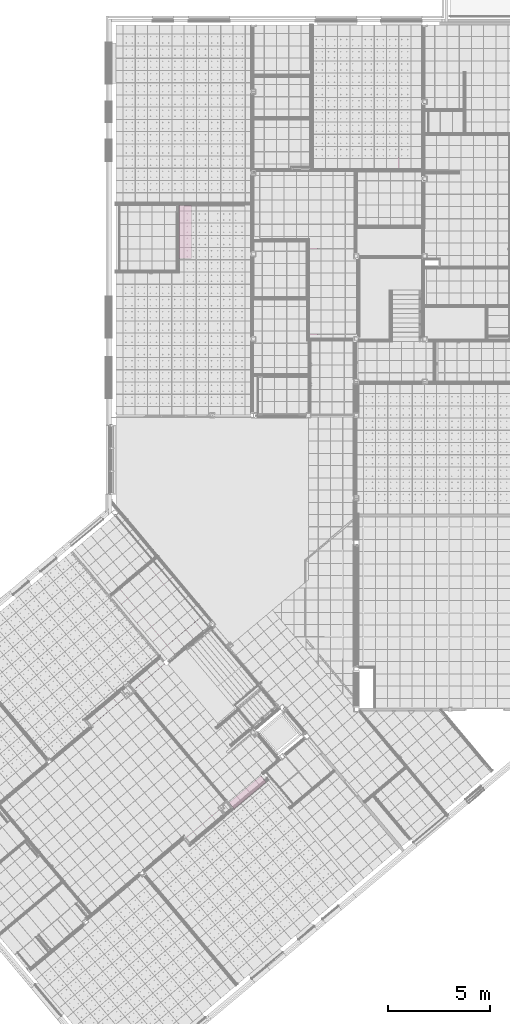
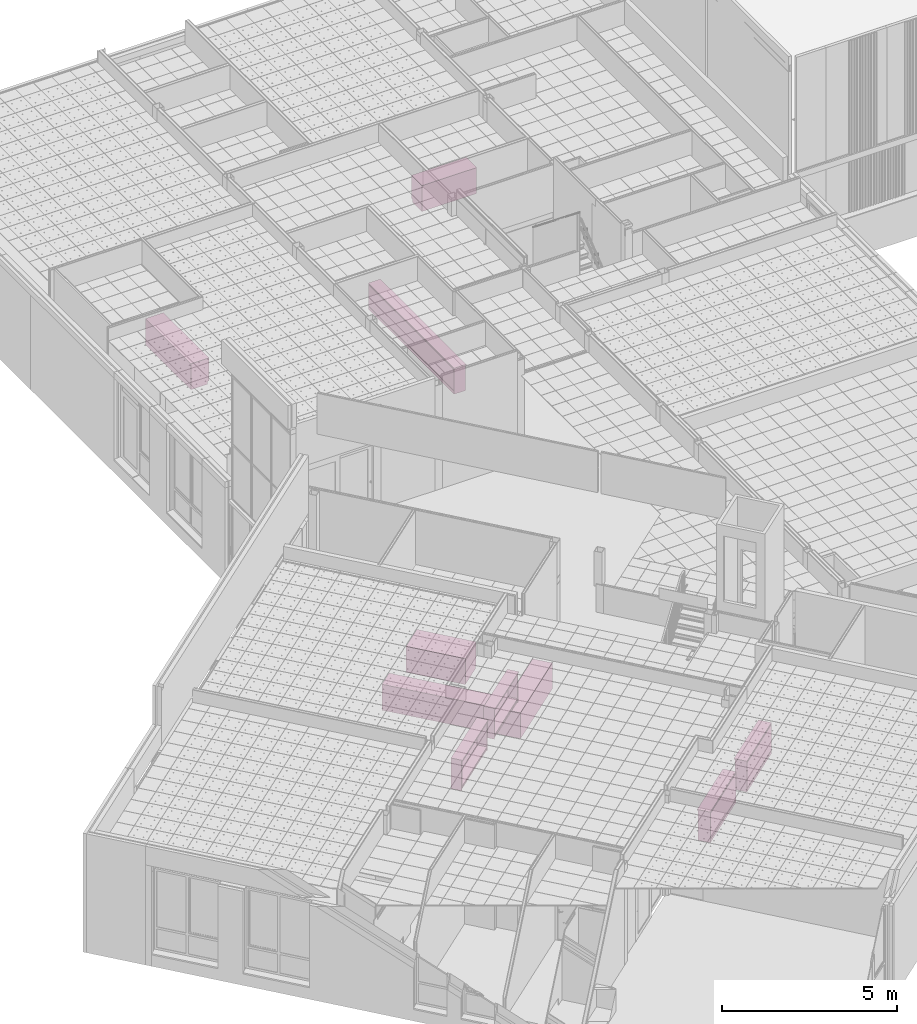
# One storey, part 124 of 338: 9 furnishings.
"""IFC2X3 building model written with IfcOpenShell, lengths in millimetres."""

from ifc_helpers import new_model, entity, si_unit, converted_unit, derived_unit, money_unit, direction, frame, origin_with_axes, place, context, subcontext, project, spatial, faceted_brep, type_object, element, save


model = new_model("IFC2X3")

# Units and contexts
model_context = context("Model", 3, precision=0.01, world=origin_with_axes(), true_north=direction((0.0, 1.0)))
plan_context = context("Plan", 3, precision=0.01, world=origin_with_axes(), true_north=direction((0.0, 1.0)))
body_context = subcontext(model_context, "Body", "Model", "MODEL_VIEW")
ifc_project = project(units=[si_unit("LENGTHUNIT", "METRE", prefix="MILLI"), si_unit("AREAUNIT", "SQUARE_METRE"), si_unit("VOLUMEUNIT", "CUBIC_METRE"), converted_unit("PLANEANGLEUNIT", "DEGREE", entity("IfcPlaneAngleMeasure", 0.0174532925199), si_unit("PLANEANGLEUNIT", "RADIAN"), dimensions=[0, 0, 0, 0, 0, 0, 0]), money_unit("EUR"), converted_unit("TIMEUNIT", "Year", entity("IfcTimeMeasure", 31556926.0), si_unit("TIMEUNIT", "SECOND"), dimensions=[0, 0, 1, 0, 0, 0, 0]), si_unit("MASSUNIT", "GRAM", prefix="KILO"), si_unit("THERMODYNAMICTEMPERATUREUNIT", "DEGREE_CELSIUS"), si_unit("LUMINOUSINTENSITYUNIT", "LUMEN"), si_unit("ENERGYUNIT", "JOULE", prefix="MEGA"), derived_unit("THERMALCONDUCTANCEUNIT", [(si_unit("POWERUNIT", "WATT"), 1), (si_unit("LENGTHUNIT", "METRE"), -1), (si_unit("THERMODYNAMICTEMPERATUREUNIT", "KELVIN"), -1)]), derived_unit("SPECIFICHEATCAPACITYUNIT", [(si_unit("ENERGYUNIT", "JOULE"), 1), (si_unit("MASSUNIT", "GRAM", prefix="KILO"), -1), (si_unit("THERMODYNAMICTEMPERATUREUNIT", "KELVIN"), -1)]), derived_unit("MASSDENSITYUNIT", [(si_unit("MASSUNIT", "GRAM", prefix="KILO"), 1), (si_unit("VOLUMEUNIT", "CUBIC_METRE"), -1)])], contexts=[model_context, plan_context])

# Site, building, storey
site_placement = place(None, origin_with_axes())
site = spatial("IfcSite", under=ifc_project, at=site_placement, Name="Fortuinstraat Woensdrecht", CompositionType="ELEMENT")
building_placement = place(site_placement, origin_with_axes())
building = spatial("IfcBuilding", under=site, at=building_placement, Name="IKC Fortuna", CompositionType="ELEMENT")
storey_placement = place(building_placement, origin_with_axes())
storey = spatial("IfcBuildingStorey", under=building, at=storey_placement, Name="00 begane grond", CompositionType="ELEMENT", Elevation=0.0)

# Furnishings
furnishing_element_type_1 = type_object("IfcFurnishingElementType", Name="Keukenopstelling 25")
furnishing_1_placement = place(storey_placement, frame((14446.070537, 6457.29319314, 0.0), z_axis=(0.0, 0.0, 1.0), x_axis=(0.642787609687, -0.766044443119, 0.0)))
element("IfcFurnishingElement", 1, at=furnishing_1_placement, inside=storey, type_object=furnishing_element_type_1, Name="73_Inrichting_P5: opstelplaats keuken door gebruikers", context=body_context, shape_type="Brep", body=[
    faceted_brep([(-1199.63709202, 0.0, 0.0), (3000.0, 15.8804798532, 0.0), (3000.0, 15.8804798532, 100.0), (-1199.63709202, 0.0, 100.0), (-1201.7168435, 549.996067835, 0.0), (2450.0, 563.804645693, 0.0), (2450.0, 563.804645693, 100.0), (-1201.7168435, 549.996067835, 100.0)], [[[0, 1, 2, 3]], [[0, 4, 5, 1]], [[1, 5, 6, 2]], [[3, 2, 6, 7]], [[4, 0, 3, 7]], [[5, 4, 7, 6]]]),
    faceted_brep([(3000.0, 15.8804798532, 0.0), (3000.0, 2665.49994966, 0.0), (3000.0, 2665.49994966, 100.0), (3000.0, 15.8804798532, 100.0), (2450.0, 563.804645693, 0.0), (2450.0, 2665.49994966, 0.0), (2450.0, 2665.49994966, 100.0), (2450.0, 563.804645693, 100.0)], [[[0, 1, 2, 3]], [[0, 4, 5, 1]], [[1, 5, 6, 2]], [[3, 2, 6, 7]], [[4, 0, 3, 7]], [[5, 4, 7, 6]]]),
    faceted_brep([(-1199.63709202, 0.0, 850.0), (3000.0, 15.8804798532, 850.0), (3000.0, 15.8804798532, 900.0), (-1199.63709202, 0.0, 900.0), (-1201.90591182, 599.995710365, 850.0), (2400.0, 613.615933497, 850.0), (2400.0, 613.615933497, 900.0), (-1201.90591182, 599.995710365, 900.0)], [[[0, 1, 2, 3]], [[0, 4, 5, 1]], [[1, 5, 6, 2]], [[3, 2, 6, 7]], [[4, 0, 3, 7]], [[5, 4, 7, 6]]]),
    faceted_brep([(3000.0, 15.8804798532, 850.0), (3000.0, 2665.49994966, 850.0), (3000.0, 2665.49994966, 900.0), (3000.0, 15.8804798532, 900.0), (2400.0, 613.615933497, 850.0), (2400.0, 2665.49994966, 850.0), (2400.0, 2665.49994966, 900.0), (2400.0, 613.615933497, 900.0)], [[[0, 1, 2, 3]], [[0, 4, 5, 1]], [[1, 5, 6, 2]], [[3, 2, 6, 7]], [[4, 0, 3, 7]], [[5, 4, 7, 6]]]),
    faceted_brep([(-1199.63709202, 0.0, 100.0), (3000.0, 15.8804798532, 100.0), (3000.0, 15.8804798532, 850.0), (-1199.63709202, 0.0, 850.0), (-1201.90591182, 599.995710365, 100.0), (2400.0, 613.615933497, 100.0), (2400.0, 613.615933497, 850.0), (-1201.90591182, 599.995710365, 850.0)], [[[0, 1, 2, 3]], [[0, 4, 5, 1]], [[1, 5, 6, 2]], [[3, 2, 6, 7]], [[4, 0, 3, 7]], [[5, 4, 7, 6]]]),
    faceted_brep([(3000.0, 15.8804798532, 100.0), (3000.0, 2665.49994966, 100.0), (3000.0, 2665.49994966, 850.0), (3000.0, 15.8804798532, 850.0), (2400.0, 613.615933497, 100.0), (2400.0, 2665.49994966, 100.0), (2400.0, 2665.49994966, 850.0), (2400.0, 613.615933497, 850.0)], [[[0, 1, 2, 3]], [[0, 4, 5, 1]], [[1, 5, 6, 2]], [[3, 2, 6, 7]], [[4, 0, 3, 7]], [[5, 4, 7, 6]]]),
])
furnishing_2_placement = place(storey_placement, frame((14441.8306991, 9586.23929838, 0.0), z_axis=(0.0, 0.0, 1.0), x_axis=(0.642787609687, -0.766044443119, 0.0)))
element("IfcFurnishingElement", 2, at=furnishing_2_placement, inside=storey, type_object=furnishing_element_type_1, Name="73_Inrichting_keuken", context=body_context, shape_type="Brep", body=[
    faceted_brep([(1200.0, 0.0, 0.0), (3000.0, 0.0, 0.0), (3000.0, 0.0, 100.0), (1200.0, 0.0, 100.0), (1200.0, 850.0, 0.0), (3000.0, 850.0, 0.0), (3000.0, 850.0, 100.0), (1200.0, 850.0, 100.0)], [[[0, 1, 2, 3]], [[0, 4, 5, 1]], [[1, 5, 6, 2]], [[3, 2, 6, 7]], [[4, 0, 3, 7]], [[5, 4, 7, 6]]]),
    faceted_brep([(1200.0, 0.0, 850.0), (3000.0, 0.0, 850.0), (3000.0, 0.0, 900.0), (1200.0, 0.0, 900.0), (1200.0, 900.0, 850.0), (3000.0, 900.0, 850.0), (3000.0, 900.0, 900.0), (1200.0, 900.0, 900.0)], [[[0, 1, 2, 3]], [[0, 4, 5, 1]], [[1, 5, 6, 2]], [[3, 2, 6, 7]], [[4, 0, 3, 7]], [[5, 4, 7, 6]]]),
    faceted_brep([(1200.0, 0.0, 100.0), (3000.0, 0.0, 100.0), (3000.0, 0.0, 850.0), (1200.0, 0.0, 850.0), (1200.0, 900.0, 100.0), (3000.0, 900.0, 100.0), (3000.0, 900.0, 850.0), (1200.0, 900.0, 850.0)], [[[0, 1, 2, 3]], [[0, 4, 5, 1]], [[1, 5, 6, 2]], [[3, 2, 6, 7]], [[4, 0, 3, 7]], [[5, 4, 7, 6]]]),
])
furnishing_3_placement = place(storey_placement, frame((16919.5342231, 26282.0384501, 0.0), z_axis=(0.0, 0.0, 1.0), x_axis=(0.0, -1.0, 0.0)))
element("IfcFurnishingElement", 3, at=furnishing_3_placement, inside=storey, type_object=furnishing_element_type_1, Name="73_Inrichting_P4", context=body_context, shape_type="Brep", body=[
    faceted_brep([(-200.072576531, 0.0, 0.0), (2400.0, 0.0, 0.0), (2400.0, 0.0, 100.0), (-200.072576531, 0.0, 100.0), (-200.072576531, 550.0, 0.0), (2400.0, 550.0, 0.0), (2400.0, 550.0, 100.0), (-200.072576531, 550.0, 100.0)], [[[0, 1, 2, 3]], [[0, 4, 5, 1]], [[1, 5, 6, 2]], [[3, 2, 6, 7]], [[4, 0, 3, 7]], [[5, 4, 7, 6]]]),
    faceted_brep([(-200.072576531, 0.0, 850.0), (2400.0, 0.0, 850.0), (2400.0, 0.0, 900.0), (-200.072576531, 0.0, 900.0), (-200.072576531, 600.0, 850.0), (2400.0, 600.0, 850.0), (2400.0, 600.0, 900.0), (-200.072576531, 600.0, 900.0)], [[[0, 1, 2, 3]], [[0, 4, 5, 1]], [[1, 5, 6, 2]], [[3, 2, 6, 7]], [[4, 0, 3, 7]], [[5, 4, 7, 6]]]),
    faceted_brep([(-200.072576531, 0.0, 100.0), (2400.0, 0.0, 100.0), (2400.0, 0.0, 850.0), (-200.072576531, 0.0, 850.0), (-200.072576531, 600.0, 100.0), (2400.0, 600.0, 100.0), (2400.0, 600.0, 850.0), (-200.072576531, 600.0, 850.0)], [[[0, 1, 2, 3]], [[0, 4, 5, 1]], [[1, 5, 6, 2]], [[3, 2, 6, 7]], [[4, 0, 3, 7]], [[5, 4, 7, 6]]]),
])
furnishing_4_placement = place(storey_placement, frame((26652.0075531, 28257.40257, 0.0), z_axis=(0.0, 0.0, 1.0), x_axis=(1.0, 0.0, 0.0)))
element("IfcFurnishingElement", 4, at=furnishing_4_placement, inside=storey, type_object=furnishing_element_type_1, Name="73_Inrichting_P3", context=body_context, shape_type="Brep", body=[
    faceted_brep([(400.0, 0.0, 0.0), (2199.92742347, 0.0, 0.0), (2199.92742347, 0.0, 100.0), (400.0, 0.0, 100.0), (400.0, 550.0, 0.0), (2199.92742347, 550.0, 0.0), (2199.92742347, 550.0, 100.0), (400.0, 550.0, 100.0)], [[[0, 1, 2, 3]], [[0, 4, 5, 1]], [[1, 5, 6, 2]], [[3, 2, 6, 7]], [[4, 0, 3, 7]], [[5, 4, 7, 6]]]),
    faceted_brep([(400.0, 0.0, 850.0), (2199.92742347, 0.0, 850.0), (2199.92742347, 0.0, 900.0), (400.0, 0.0, 900.0), (400.0, 600.0, 850.0), (2199.92742347, 600.0, 850.0), (2199.92742347, 600.0, 900.0), (400.0, 600.0, 900.0)], [[[0, 1, 2, 3]], [[0, 4, 5, 1]], [[1, 5, 6, 2]], [[3, 2, 6, 7]], [[4, 0, 3, 7]], [[5, 4, 7, 6]]]),
    faceted_brep([(400.0, 0.0, 100.0), (2199.92742347, 0.0, 100.0), (2199.92742347, 0.0, 850.0), (400.0, 0.0, 850.0), (400.0, 600.0, 100.0), (2199.92742347, 600.0, 100.0), (2199.92742347, 600.0, 850.0), (400.0, 600.0, 850.0)], [[[0, 1, 2, 3]], [[0, 4, 5, 1]], [[1, 5, 6, 2]], [[3, 2, 6, 7]], [[4, 0, 3, 7]], [[5, 4, 7, 6]]]),
])
furnishing_element_type_2 = type_object("IfcFurnishingElementType", Name="Boekenplank 01 25")
furnishing_5_placement = place(storey_placement, frame((14265.3676096, 2334.20079361, 1450.0), z_axis=(0.0, 0.0, 1.0), x_axis=(0.766044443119, 0.642787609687, 0.0)))
element("IfcFurnishingElement", 5, at=furnishing_5_placement, inside=storey, type_object=furnishing_element_type_2, Name="71_Inrichting_G5", context=body_context, shape_type="Brep", body=[
    faceted_brep([(-2129.30046266, 350.0, 120.0), (-2129.30046266, 330.0, 120.0), (-2129.30046266, 330.0, 1017.0), (-2129.30046266, 350.0, 1017.0), (-20.0, 350.0, 120.0), (-20.0, 330.0, 120.0), (-20.0, 330.0, 1017.0), (-20.0, 350.0, 1017.0)], [[[0, 1, 2, 3]], [[0, 4, 5, 1]], [[1, 5, 6, 2]], [[3, 2, 6, 7]], [[4, 0, 3, 7]], [[5, 4, 7, 6]]]),
    faceted_brep([(-2129.30046266, 330.0, 100.0), (-2129.30046266, 30.0, 100.0), (-2129.30046266, 30.0, 130.0), (-2129.30046266, 330.0, 130.0), (-20.0, 330.0, 100.0), (-20.0, 30.0, 100.0), (-20.0, 30.0, 130.0), (-20.0, 330.0, 130.0)], [[[0, 1, 2, 3]], [[0, 4, 5, 1]], [[1, 5, 6, 2]], [[3, 2, 6, 7]], [[4, 0, 3, 7]], [[5, 4, 7, 6]]]),
    faceted_brep([(-2129.30046266, 330.0, 1007.0), (-2129.30046266, 30.0, 1007.0), (-2129.30046266, 30.0, 1037.0), (-2129.30046266, 330.0, 1037.0), (-20.0, 330.0, 1007.0), (-20.0, 30.0, 1007.0), (-20.0, 30.0, 1037.0), (-20.0, 330.0, 1037.0)], [[[0, 1, 2, 3]], [[0, 4, 5, 1]], [[1, 5, 6, 2]], [[3, 2, 6, 7]], [[4, 0, 3, 7]], [[5, 4, 7, 6]]]),
    faceted_brep([(-20.0, 30.0, 100.0), (0.0, 30.0, 100.0), (0.0, 30.0, 1037.0), (-20.0, 30.0, 1037.0), (-20.0, 350.0, 100.0), (0.0, 350.0, 100.0), (0.0, 350.0, 1037.0), (-20.0, 350.0, 1037.0)], [[[0, 1, 2, 3]], [[0, 4, 5, 1]], [[1, 5, 6, 2]], [[3, 2, 6, 7]], [[4, 0, 3, 7]], [[5, 4, 7, 6]]]),
    faceted_brep([(-2129.30046266, 350.0, 100.0), (-2149.30046266, 350.0, 100.0), (-2149.30046266, 350.0, 1037.0), (-2129.30046266, 350.0, 1037.0), (-2129.30046266, 30.0, 100.0), (-2149.30046266, 30.0, 100.0), (-2149.30046266, 30.0, 1037.0), (-2129.30046266, 30.0, 1037.0)], [[[0, 1, 2, 3]], [[0, 4, 5, 1]], [[1, 5, 6, 2]], [[3, 2, 6, 7]], [[4, 0, 3, 7]], [[5, 4, 7, 6]]]),
    faceted_brep([(0.0, 350.0, 1037.0), (0.0, 350.0, 1067.0), (0.0, 0.0, 1067.0), (0.0, 0.0, 1037.0), (-2149.30046266, 350.0, 1037.0), (-2149.30046266, 350.0, 1067.0), (-2149.30046266, 0.0, 1067.0), (-2149.30046266, 0.0, 1037.0)], [[[0, 1, 2, 3]], [[4, 5, 1, 0]], [[1, 5, 6, 2]], [[3, 2, 6, 7]], [[0, 3, 7, 4]], [[7, 6, 5, 4]]]),
    faceted_brep([(-2129.30046266, 350.0, 0.0), (-2129.30046266, 330.0, 0.0), (-2129.30046266, 330.0, 100.0), (-2129.30046266, 350.0, 100.0), (-20.0, 350.0, 0.0), (-20.0, 330.0, 0.0), (-20.0, 330.0, 100.0), (-20.0, 350.0, 100.0)], [[[0, 1, 2, 3]], [[0, 4, 5, 1]], [[1, 5, 6, 2]], [[3, 2, 6, 7]], [[4, 0, 3, 7]], [[5, 4, 7, 6]]]),
    faceted_brep([(-2149.30046266, 350.0, 0.0), (-2149.30046266, 30.0, 0.0), (-2149.30046266, 30.0, 100.0), (-2149.30046266, 350.0, 100.0), (-2129.30046266, 350.0, 0.0), (-2129.30046266, 30.0, 0.0), (-2129.30046266, 30.0, 100.0), (-2129.30046266, 350.0, 100.0)], [[[0, 1, 2, 3]], [[0, 4, 5, 1]], [[1, 5, 6, 2]], [[3, 2, 6, 7]], [[4, 0, 3, 7]], [[5, 4, 7, 6]]]),
    faceted_brep([(-20.0, 350.0, 0.0), (-20.0, 30.0, 0.0), (-20.0, 30.0, 100.0), (-20.0, 350.0, 100.0), (0.0, 350.0, 0.0), (0.0, 30.0, 0.0), (0.0, 30.0, 100.0), (0.0, 350.0, 100.0)], [[[0, 1, 2, 3]], [[0, 4, 5, 1]], [[1, 5, 6, 2]], [[3, 2, 6, 7]], [[4, 0, 3, 7]], [[5, 4, 7, 6]]]),
    faceted_brep([(-2129.30046266, 70.0, 0.0), (-2129.30046266, 50.0, 0.0), (-2129.30046266, 50.0, 100.0), (-2129.30046266, 70.0, 100.0), (-20.0, 70.0, 0.0), (-20.0, 50.0, 0.0), (-20.0, 50.0, 100.0), (-20.0, 70.0, 100.0)], [[[0, 1, 2, 3]], [[0, 4, 5, 1]], [[1, 5, 6, 2]], [[3, 2, 6, 7]], [[4, 0, 3, 7]], [[5, 4, 7, 6]]]),
])
furnishing_6_placement = place(storey_placement, frame((16218.4589412, 3973.03900965, 1450.0), z_axis=(0.0, 0.0, 1.0), x_axis=(0.766044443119, 0.642787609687, 0.0)))
element("IfcFurnishingElement", 6, at=furnishing_6_placement, inside=storey, type_object=furnishing_element_type_2, Name="71_Inrichting_G1", context=body_context, shape_type="Brep", body=[
    faceted_brep([(-1947.88053001, 350.0, 120.0), (-1947.88053001, 330.0, 120.0), (-1947.88053001, 330.0, 1017.0), (-1947.88053001, 350.0, 1017.0), (-20.0, 350.0, 120.0), (-20.0, 330.0, 120.0), (-20.0, 330.0, 1017.0), (-20.0, 350.0, 1017.0)], [[[0, 1, 2, 3]], [[0, 4, 5, 1]], [[1, 5, 6, 2]], [[3, 2, 6, 7]], [[4, 0, 3, 7]], [[5, 4, 7, 6]]]),
    faceted_brep([(-1947.88053001, 330.0, 100.0), (-1947.88053001, 30.0, 100.0), (-1947.88053001, 30.0, 130.0), (-1947.88053001, 330.0, 130.0), (-20.0, 330.0, 100.0), (-20.0, 30.0, 100.0), (-20.0, 30.0, 130.0), (-20.0, 330.0, 130.0)], [[[0, 1, 2, 3]], [[0, 4, 5, 1]], [[1, 5, 6, 2]], [[3, 2, 6, 7]], [[4, 0, 3, 7]], [[5, 4, 7, 6]]]),
    faceted_brep([(-1947.88053001, 330.0, 1007.0), (-1947.88053001, 30.0, 1007.0), (-1947.88053001, 30.0, 1037.0), (-1947.88053001, 330.0, 1037.0), (-20.0, 330.0, 1007.0), (-20.0, 30.0, 1007.0), (-20.0, 30.0, 1037.0), (-20.0, 330.0, 1037.0)], [[[0, 1, 2, 3]], [[0, 4, 5, 1]], [[1, 5, 6, 2]], [[3, 2, 6, 7]], [[4, 0, 3, 7]], [[5, 4, 7, 6]]]),
    faceted_brep([(-20.0, 30.0, 100.0), (0.0, 30.0, 100.0), (0.0, 30.0, 1037.0), (-20.0, 30.0, 1037.0), (-20.0, 350.0, 100.0), (0.0, 350.0, 100.0), (0.0, 350.0, 1037.0), (-20.0, 350.0, 1037.0)], [[[0, 1, 2, 3]], [[0, 4, 5, 1]], [[1, 5, 6, 2]], [[3, 2, 6, 7]], [[4, 0, 3, 7]], [[5, 4, 7, 6]]]),
    faceted_brep([(-1947.88053001, 350.0, 100.0), (-1967.88053001, 350.0, 100.0), (-1967.88053001, 350.0, 1037.0), (-1947.88053001, 350.0, 1037.0), (-1947.88053001, 30.0, 100.0), (-1967.88053001, 30.0, 100.0), (-1967.88053001, 30.0, 1037.0), (-1947.88053001, 30.0, 1037.0)], [[[0, 1, 2, 3]], [[0, 4, 5, 1]], [[1, 5, 6, 2]], [[3, 2, 6, 7]], [[4, 0, 3, 7]], [[5, 4, 7, 6]]]),
    faceted_brep([(0.0, 350.0, 1037.0), (0.0, 350.0, 1067.0), (0.0, 0.0, 1067.0), (0.0, 0.0, 1037.0), (-1967.88053001, 350.0, 1037.0), (-1967.88053001, 350.0, 1067.0), (-1967.88053001, 0.0, 1067.0), (-1967.88053001, 0.0, 1037.0)], [[[0, 1, 2, 3]], [[4, 5, 1, 0]], [[1, 5, 6, 2]], [[3, 2, 6, 7]], [[0, 3, 7, 4]], [[7, 6, 5, 4]]]),
    faceted_brep([(-1947.88053001, 350.0, 0.0), (-1947.88053001, 330.0, 0.0), (-1947.88053001, 330.0, 100.0), (-1947.88053001, 350.0, 100.0), (-20.0, 350.0, 0.0), (-20.0, 330.0, 0.0), (-20.0, 330.0, 100.0), (-20.0, 350.0, 100.0)], [[[0, 1, 2, 3]], [[0, 4, 5, 1]], [[1, 5, 6, 2]], [[3, 2, 6, 7]], [[4, 0, 3, 7]], [[5, 4, 7, 6]]]),
    faceted_brep([(-1967.88053001, 350.0, 0.0), (-1967.88053001, 30.0, 0.0), (-1967.88053001, 30.0, 100.0), (-1967.88053001, 350.0, 100.0), (-1947.88053001, 350.0, 0.0), (-1947.88053001, 30.0, 0.0), (-1947.88053001, 30.0, 100.0), (-1947.88053001, 350.0, 100.0)], [[[0, 1, 2, 3]], [[0, 4, 5, 1]], [[1, 5, 6, 2]], [[3, 2, 6, 7]], [[4, 0, 3, 7]], [[5, 4, 7, 6]]]),
    faceted_brep([(-20.0, 350.0, 0.0), (-20.0, 30.0, 0.0), (-20.0, 30.0, 100.0), (-20.0, 350.0, 100.0), (0.0, 350.0, 0.0), (0.0, 30.0, 0.0), (0.0, 30.0, 100.0), (0.0, 350.0, 100.0)], [[[0, 1, 2, 3]], [[0, 4, 5, 1]], [[1, 5, 6, 2]], [[3, 2, 6, 7]], [[4, 0, 3, 7]], [[5, 4, 7, 6]]]),
    faceted_brep([(-1947.88053001, 70.0, 0.0), (-1947.88053001, 50.0, 0.0), (-1947.88053001, 50.0, 100.0), (-1947.88053001, 70.0, 100.0), (-20.0, 70.0, 0.0), (-20.0, 50.0, 0.0), (-20.0, 50.0, 100.0), (-20.0, 70.0, 100.0)], [[[0, 1, 2, 3]], [[0, 4, 5, 1]], [[1, 5, 6, 2]], [[3, 2, 6, 7]], [[4, 0, 3, 7]], [[5, 4, 7, 6]]]),
])
furnishing_7_placement = place(storey_placement, frame((18838.2828243, -3116.64059993, 1450.0), z_axis=(0.0, 0.0, 1.0), x_axis=(-0.766044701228, -0.642787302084, 0.0)))
element("IfcFurnishingElement", 7, at=furnishing_7_placement, inside=storey, type_object=furnishing_element_type_2, Name="71_Inrichting_G5", context=body_context, shape_type="Brep", body=[
    faceted_brep([(2128.62328098, 400.000862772, 120.0), (2128.62328098, 400.000862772, 1017.0), (2128.62328098, 380.000862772, 1017.0), (2128.62328098, 380.000862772, 120.0), (20.0, 400.000862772, 120.0), (20.0, 400.000862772, 1017.0), (20.0, 380.000862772, 1017.0), (20.0, 380.000862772, 120.0)], [[[0, 1, 2, 3]], [[4, 5, 1, 0]], [[1, 5, 6, 2]], [[3, 2, 6, 7]], [[0, 3, 7, 4]], [[7, 6, 5, 4]]]),
    faceted_brep([(2128.62328098, 380.000862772, 100.0), (2128.62328098, 380.000862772, 130.0), (2128.62328098, 30.0, 130.0), (2128.62328098, 30.0, 100.0), (20.0, 380.000862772, 100.0), (20.0, 380.000862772, 130.0), (20.0, 30.0, 130.0), (20.0, 30.0, 100.0)], [[[0, 1, 2, 3]], [[4, 5, 1, 0]], [[1, 5, 6, 2]], [[3, 2, 6, 7]], [[0, 3, 7, 4]], [[7, 6, 5, 4]]]),
    faceted_brep([(2128.62328098, 380.000862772, 1007.0), (2128.62328098, 380.000862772, 1037.0), (2128.62328098, 30.0, 1037.0), (2128.62328098, 30.0, 1007.0), (20.0, 380.000862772, 1007.0), (20.0, 380.000862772, 1037.0), (20.0, 30.0, 1037.0), (20.0, 30.0, 1007.0)], [[[0, 1, 2, 3]], [[4, 5, 1, 0]], [[1, 5, 6, 2]], [[3, 2, 6, 7]], [[0, 3, 7, 4]], [[7, 6, 5, 4]]]),
    faceted_brep([(20.0, 30.0, 100.0), (20.0, 30.0, 1037.0), (0.0, 30.0, 1037.0), (0.0, 30.0, 100.0), (20.0, 400.000862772, 100.0), (20.0, 400.000862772, 1037.0), (0.0, 400.000862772, 1037.0), (0.0, 400.000862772, 100.0)], [[[0, 1, 2, 3]], [[4, 5, 1, 0]], [[1, 5, 6, 2]], [[3, 2, 6, 7]], [[0, 3, 7, 4]], [[7, 6, 5, 4]]]),
    faceted_brep([(2128.62328098, 400.000862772, 100.0), (2128.62328098, 400.000862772, 1037.0), (2148.62328098, 400.000862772, 1037.0), (2148.62328098, 400.000862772, 100.0), (2128.62328098, 30.0, 100.0), (2128.62328098, 30.0, 1037.0), (2148.62328098, 30.0, 1037.0), (2148.62328098, 30.0, 100.0)], [[[0, 1, 2, 3]], [[4, 5, 1, 0]], [[1, 5, 6, 2]], [[3, 2, 6, 7]], [[0, 3, 7, 4]], [[7, 6, 5, 4]]]),
    faceted_brep([(0.0, 400.000862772, 1037.0), (0.0, 0.0, 1037.0), (0.0, 0.0, 1067.0), (0.0, 400.000862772, 1067.0), (2148.62328098, 400.000862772, 1037.0), (2148.62328098, 0.0, 1037.0), (2148.62328098, 0.0, 1067.0), (2148.62328098, 400.000862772, 1067.0)], [[[0, 1, 2, 3]], [[0, 4, 5, 1]], [[1, 5, 6, 2]], [[3, 2, 6, 7]], [[4, 0, 3, 7]], [[5, 4, 7, 6]]]),
    faceted_brep([(2128.62328098, 400.000862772, 0.0), (2128.62328098, 400.000862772, 100.0), (2128.62328098, 380.000862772, 100.0), (2128.62328098, 380.000862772, 0.0), (20.0, 400.000862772, 0.0), (20.0, 400.000862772, 100.0), (20.0, 380.000862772, 100.0), (20.0, 380.000862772, 0.0)], [[[0, 1, 2, 3]], [[4, 5, 1, 0]], [[1, 5, 6, 2]], [[3, 2, 6, 7]], [[0, 3, 7, 4]], [[7, 6, 5, 4]]]),
    faceted_brep([(2148.62328098, 400.000862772, 0.0), (2148.62328098, 400.000862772, 100.0), (2148.62328098, 30.0, 100.0), (2148.62328098, 30.0, 0.0), (2128.62328098, 400.000862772, 0.0), (2128.62328098, 400.000862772, 100.0), (2128.62328098, 30.0, 100.0), (2128.62328098, 30.0, 0.0)], [[[0, 1, 2, 3]], [[4, 5, 1, 0]], [[1, 5, 6, 2]], [[3, 2, 6, 7]], [[0, 3, 7, 4]], [[7, 6, 5, 4]]]),
    faceted_brep([(20.0, 400.000862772, 0.0), (20.0, 400.000862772, 100.0), (20.0, 30.0, 100.0), (20.0, 30.0, 0.0), (0.0, 400.000862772, 0.0), (0.0, 400.000862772, 100.0), (0.0, 30.0, 100.0), (0.0, 30.0, 0.0)], [[[0, 1, 2, 3]], [[4, 5, 1, 0]], [[1, 5, 6, 2]], [[3, 2, 6, 7]], [[0, 3, 7, 4]], [[7, 6, 5, 4]]]),
    faceted_brep([(2128.62328098, 70.0, 0.0), (2128.62328098, 70.0, 100.0), (2128.62328098, 50.0, 100.0), (2128.62328098, 50.0, 0.0), (20.0, 70.0, 0.0), (20.0, 70.0, 100.0), (20.0, 50.0, 100.0), (20.0, 50.0, 0.0)], [[[0, 1, 2, 3]], [[4, 5, 1, 0]], [[1, 5, 6, 2]], [[3, 2, 6, 7]], [[0, 3, 7, 4]], [[7, 6, 5, 4]]]),
])
furnishing_8_placement = place(storey_placement, frame((20930.3254298, -1514.58926154, 1450.0), z_axis=(0.0, 0.0, 1.0), x_axis=(-0.766044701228, -0.642787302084, 0.0)))
element("IfcFurnishingElement", 8, at=furnishing_8_placement, inside=storey, type_object=furnishing_element_type_2, Name="71_Inrichting_G1", context=body_context, shape_type="Brep", body=[
    faceted_brep([(2030.00025113, 400.0, 120.0), (2030.00025113, 400.0, 1017.0), (2030.00025113, 380.0, 1017.0), (2030.00025113, 380.0, 120.0), (20.0, 400.0, 120.0), (20.0, 400.0, 1017.0), (20.0, 380.0, 1017.0), (20.0, 380.0, 120.0)], [[[0, 1, 2, 3]], [[4, 5, 1, 0]], [[1, 5, 6, 2]], [[3, 2, 6, 7]], [[0, 3, 7, 4]], [[7, 6, 5, 4]]]),
    faceted_brep([(2030.00025113, 380.0, 100.0), (2030.00025113, 380.0, 130.0), (2030.00025113, 30.0, 130.0), (2030.00025113, 30.0, 100.0), (20.0, 380.0, 100.0), (20.0, 380.0, 130.0), (20.0, 30.0, 130.0), (20.0, 30.0, 100.0)], [[[0, 1, 2, 3]], [[4, 5, 1, 0]], [[1, 5, 6, 2]], [[3, 2, 6, 7]], [[0, 3, 7, 4]], [[7, 6, 5, 4]]]),
    faceted_brep([(2030.00025113, 380.0, 1007.0), (2030.00025113, 380.0, 1037.0), (2030.00025113, 30.0, 1037.0), (2030.00025113, 30.0, 1007.0), (20.0, 380.0, 1007.0), (20.0, 380.0, 1037.0), (20.0, 30.0, 1037.0), (20.0, 30.0, 1007.0)], [[[0, 1, 2, 3]], [[4, 5, 1, 0]], [[1, 5, 6, 2]], [[3, 2, 6, 7]], [[0, 3, 7, 4]], [[7, 6, 5, 4]]]),
    faceted_brep([(20.0, 30.0, 100.0), (20.0, 30.0, 1037.0), (0.0, 30.0, 1037.0), (0.0, 30.0, 100.0), (20.0, 400.0, 100.0), (20.0, 400.0, 1037.0), (0.0, 400.0, 1037.0), (0.0, 400.0, 100.0)], [[[0, 1, 2, 3]], [[4, 5, 1, 0]], [[1, 5, 6, 2]], [[3, 2, 6, 7]], [[0, 3, 7, 4]], [[7, 6, 5, 4]]]),
    faceted_brep([(2030.00025113, 400.0, 100.0), (2030.00025113, 400.0, 1037.0), (2050.00025113, 400.0, 1037.0), (2050.00025113, 400.0, 100.0), (2030.00025113, 30.0, 100.0), (2030.00025113, 30.0, 1037.0), (2050.00025113, 30.0, 1037.0), (2050.00025113, 30.0, 100.0)], [[[0, 1, 2, 3]], [[4, 5, 1, 0]], [[1, 5, 6, 2]], [[3, 2, 6, 7]], [[0, 3, 7, 4]], [[7, 6, 5, 4]]]),
    faceted_brep([(0.0, 400.0, 1037.0), (0.0, 0.0, 1037.0), (0.0, 0.0, 1067.0), (0.0, 400.0, 1067.0), (2050.00025113, 400.0, 1037.0), (2050.00025113, 0.0, 1037.0), (2050.00025113, 0.0, 1067.0), (2050.00025113, 400.0, 1067.0)], [[[0, 1, 2, 3]], [[0, 4, 5, 1]], [[1, 5, 6, 2]], [[3, 2, 6, 7]], [[4, 0, 3, 7]], [[5, 4, 7, 6]]]),
    faceted_brep([(2030.00025113, 400.0, 0.0), (2030.00025113, 400.0, 100.0), (2030.00025113, 380.0, 100.0), (2030.00025113, 380.0, 0.0), (20.0, 400.0, 0.0), (20.0, 400.0, 100.0), (20.0, 380.0, 100.0), (20.0, 380.0, 0.0)], [[[0, 1, 2, 3]], [[4, 5, 1, 0]], [[1, 5, 6, 2]], [[3, 2, 6, 7]], [[0, 3, 7, 4]], [[7, 6, 5, 4]]]),
    faceted_brep([(2050.00025113, 400.0, 0.0), (2050.00025113, 400.0, 100.0), (2050.00025113, 30.0, 100.0), (2050.00025113, 30.0, 0.0), (2030.00025113, 400.0, 0.0), (2030.00025113, 400.0, 100.0), (2030.00025113, 30.0, 100.0), (2030.00025113, 30.0, 0.0)], [[[0, 1, 2, 3]], [[4, 5, 1, 0]], [[1, 5, 6, 2]], [[3, 2, 6, 7]], [[0, 3, 7, 4]], [[7, 6, 5, 4]]]),
    faceted_brep([(20.0, 400.0, 0.0), (20.0, 400.0, 100.0), (20.0, 30.0, 100.0), (20.0, 30.0, 0.0), (0.0, 400.0, 0.0), (0.0, 400.0, 100.0), (0.0, 30.0, 100.0), (0.0, 30.0, 0.0)], [[[0, 1, 2, 3]], [[4, 5, 1, 0]], [[1, 5, 6, 2]], [[3, 2, 6, 7]], [[0, 3, 7, 4]], [[7, 6, 5, 4]]]),
    faceted_brep([(2030.00025113, 70.0, 0.0), (2030.00025113, 70.0, 100.0), (2030.00025113, 50.0, 100.0), (2030.00025113, 50.0, 0.0), (20.0, 70.0, 0.0), (20.0, 70.0, 100.0), (20.0, 50.0, 100.0), (20.0, 50.0, 0.0)], [[[0, 1, 2, 3]], [[4, 5, 1, 0]], [[1, 5, 6, 2]], [[3, 2, 6, 7]], [[0, 3, 7, 4]], [[7, 6, 5, 4]]]),
])
furnishing_9_placement = place(storey_placement, frame((23707.9349765, 24837.7644288, 0.0), z_axis=(0.0, 0.0, 1.0), x_axis=(0.0, 1.0, 0.0)))
element("IfcFurnishingElement", 9, at=furnishing_9_placement, inside=storey, type_object=furnishing_element_type_2, Name="71_Inrichting_G4", context=body_context, shape_type="Brep", body=[
    faceted_brep([(-4878.0, 400.0, 120.0), (-4878.0, 380.0, 120.0), (-4878.0, 380.0, 850.0), (-4878.0, 400.0, 850.0), (-20.0, 400.0, 120.0), (-20.0, 380.0, 120.0), (-20.0, 380.0, 850.0), (-20.0, 400.0, 850.0)], [[[0, 1, 2, 3]], [[0, 4, 5, 1]], [[1, 5, 6, 2]], [[3, 2, 6, 7]], [[4, 0, 3, 7]], [[5, 4, 7, 6]]]),
    faceted_brep([(-4878.0, 380.0, 100.0), (-4878.0, 30.0, 100.0), (-4878.0, 30.0, 130.0), (-4878.0, 380.0, 130.0), (-20.0, 380.0, 100.0), (-20.0, 30.0, 100.0), (-20.0, 30.0, 130.0), (-20.0, 380.0, 130.0)], [[[0, 1, 2, 3]], [[0, 4, 5, 1]], [[1, 5, 6, 2]], [[3, 2, 6, 7]], [[4, 0, 3, 7]], [[5, 4, 7, 6]]]),
    faceted_brep([(-4878.0, 380.0, 840.0), (-4878.0, 30.0, 840.0), (-4878.0, 30.0, 870.0), (-4878.0, 380.0, 870.0), (-20.0, 380.0, 840.0), (-20.0, 30.0, 840.0), (-20.0, 30.0, 870.0), (-20.0, 380.0, 870.0)], [[[0, 1, 2, 3]], [[0, 4, 5, 1]], [[1, 5, 6, 2]], [[3, 2, 6, 7]], [[4, 0, 3, 7]], [[5, 4, 7, 6]]]),
    faceted_brep([(-20.0, 30.0, 100.0), (0.0, 30.0, 100.0), (0.0, 30.0, 870.0), (-20.0, 30.0, 870.0), (-20.0, 400.0, 100.0), (0.0, 400.0, 100.0), (0.0, 400.0, 870.0), (-20.0, 400.0, 870.0)], [[[0, 1, 2, 3]], [[0, 4, 5, 1]], [[1, 5, 6, 2]], [[3, 2, 6, 7]], [[4, 0, 3, 7]], [[5, 4, 7, 6]]]),
    faceted_brep([(-4878.0, 400.0, 100.0), (-4898.0, 400.0, 100.0), (-4898.0, 400.0, 870.0), (-4878.0, 400.0, 870.0), (-4878.0, 30.0, 100.0), (-4898.0, 30.0, 100.0), (-4898.0, 30.0, 870.0), (-4878.0, 30.0, 870.0)], [[[0, 1, 2, 3]], [[0, 4, 5, 1]], [[1, 5, 6, 2]], [[3, 2, 6, 7]], [[4, 0, 3, 7]], [[5, 4, 7, 6]]]),
    faceted_brep([(0.0, 400.0, 870.0), (0.0, 400.0, 900.0), (0.0, 0.0, 900.0), (0.0, 0.0, 870.0), (-4898.0, 400.0, 870.0), (-4898.0, 400.0, 900.0), (-4898.0, 0.0, 900.0), (-4898.0, 0.0, 870.0)], [[[0, 1, 2, 3]], [[4, 5, 1, 0]], [[1, 5, 6, 2]], [[3, 2, 6, 7]], [[0, 3, 7, 4]], [[7, 6, 5, 4]]]),
    faceted_brep([(-4878.0, 400.0, 0.0), (-4878.0, 380.0, 0.0), (-4878.0, 380.0, 100.0), (-4878.0, 400.0, 100.0), (-20.0, 400.0, 0.0), (-20.0, 380.0, 0.0), (-20.0, 380.0, 100.0), (-20.0, 400.0, 100.0)], [[[0, 1, 2, 3]], [[0, 4, 5, 1]], [[1, 5, 6, 2]], [[3, 2, 6, 7]], [[4, 0, 3, 7]], [[5, 4, 7, 6]]]),
    faceted_brep([(-4898.0, 400.0, 0.0), (-4898.0, 30.0, 0.0), (-4898.0, 30.0, 100.0), (-4898.0, 400.0, 100.0), (-4878.0, 400.0, 0.0), (-4878.0, 30.0, 0.0), (-4878.0, 30.0, 100.0), (-4878.0, 400.0, 100.0)], [[[0, 1, 2, 3]], [[0, 4, 5, 1]], [[1, 5, 6, 2]], [[3, 2, 6, 7]], [[4, 0, 3, 7]], [[5, 4, 7, 6]]]),
    faceted_brep([(-20.0, 400.0, 0.0), (-20.0, 30.0, 0.0), (-20.0, 30.0, 100.0), (-20.0, 400.0, 100.0), (0.0, 400.0, 0.0), (0.0, 30.0, 0.0), (0.0, 30.0, 100.0), (0.0, 400.0, 100.0)], [[[0, 1, 2, 3]], [[0, 4, 5, 1]], [[1, 5, 6, 2]], [[3, 2, 6, 7]], [[4, 0, 3, 7]], [[5, 4, 7, 6]]]),
    faceted_brep([(-4878.0, 70.0, 0.0), (-4878.0, 50.0, 0.0), (-4878.0, 50.0, 100.0), (-4878.0, 70.0, 100.0), (-20.0, 70.0, 0.0), (-20.0, 50.0, 0.0), (-20.0, 50.0, 100.0), (-20.0, 70.0, 100.0)], [[[0, 1, 2, 3]], [[0, 4, 5, 1]], [[1, 5, 6, 2]], [[3, 2, 6, 7]], [[4, 0, 3, 7]], [[5, 4, 7, 6]]]),
])

save(model, "model.ifc")
